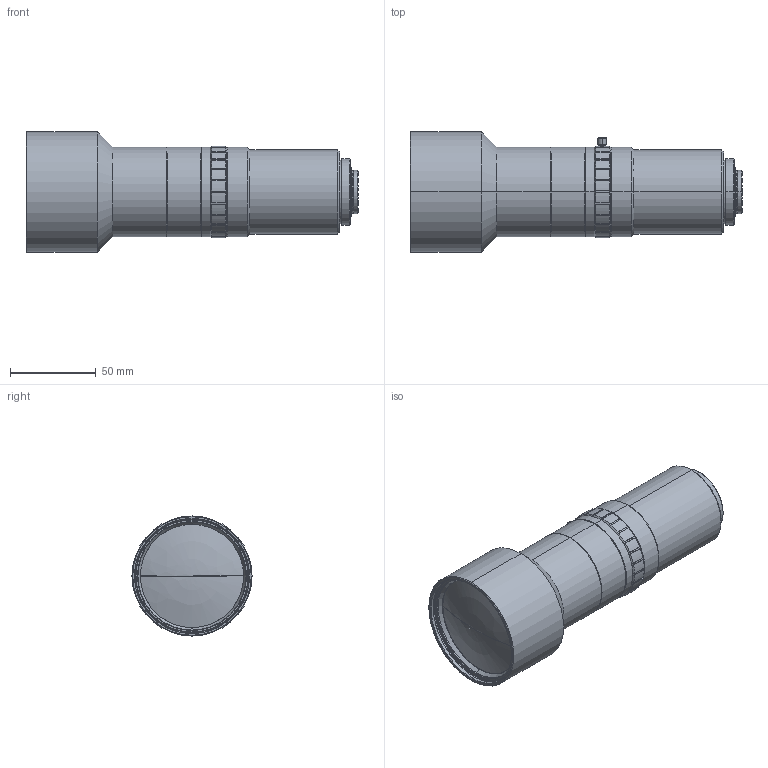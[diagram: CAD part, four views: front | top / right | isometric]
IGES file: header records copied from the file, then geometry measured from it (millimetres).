
Start section: SolidWorks IGES file using analytic representation for surfaces
Global section: file name: C:\Users\miura_vst\Desktop\3D\VS-TCM05-130_S\VS-TCM05-130_S.IGS; native system: SolidWorks 2014; preprocessor: SolidWorks 2014; author: miura_vst; date: 140825.094227; units: millimetre
Bounding box: 193.47 x 70 x 70 mm (x, y, z)
Surface area: 42772.2 mm2 (no closed solid volume)
Topology: 0 solids, 0 shells, 203 faces, 2640 edges, 2639 vertices
Faces by surface type: revolution 114, bspline 89
